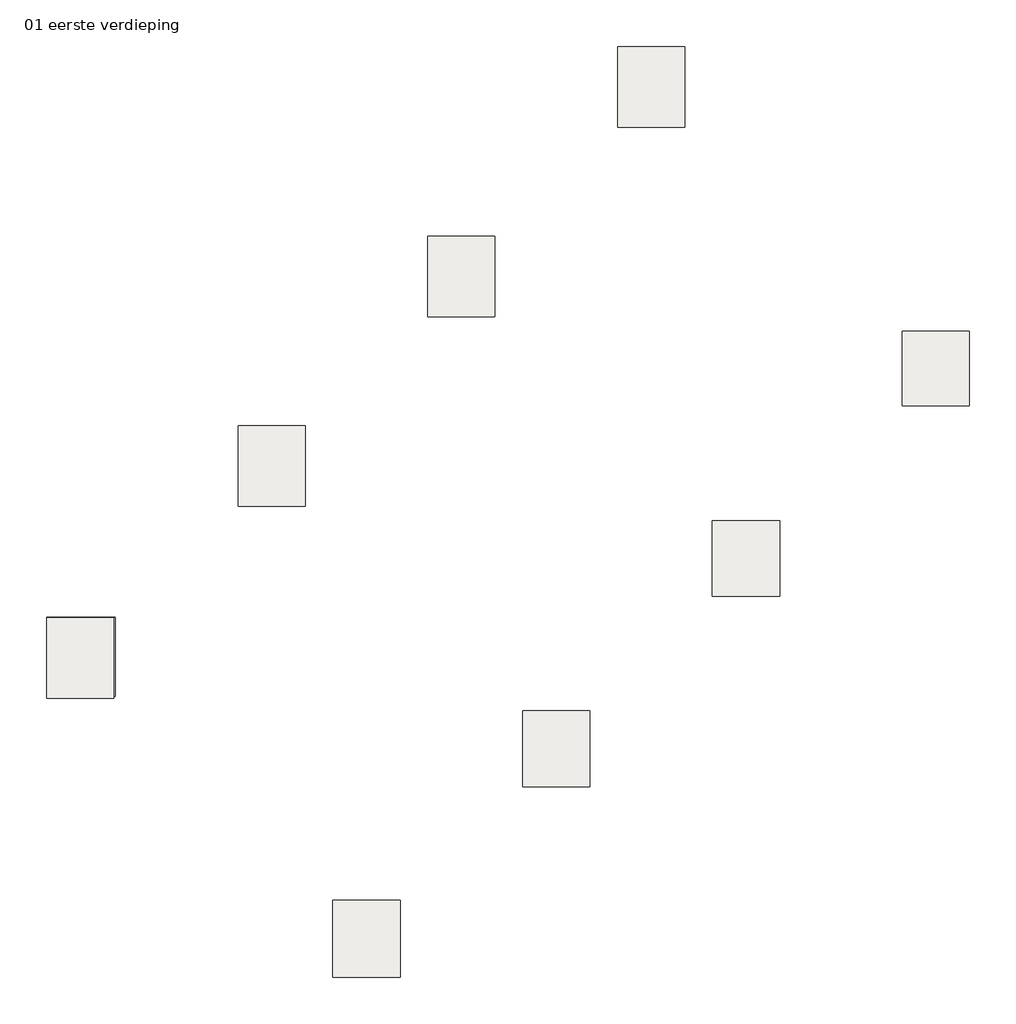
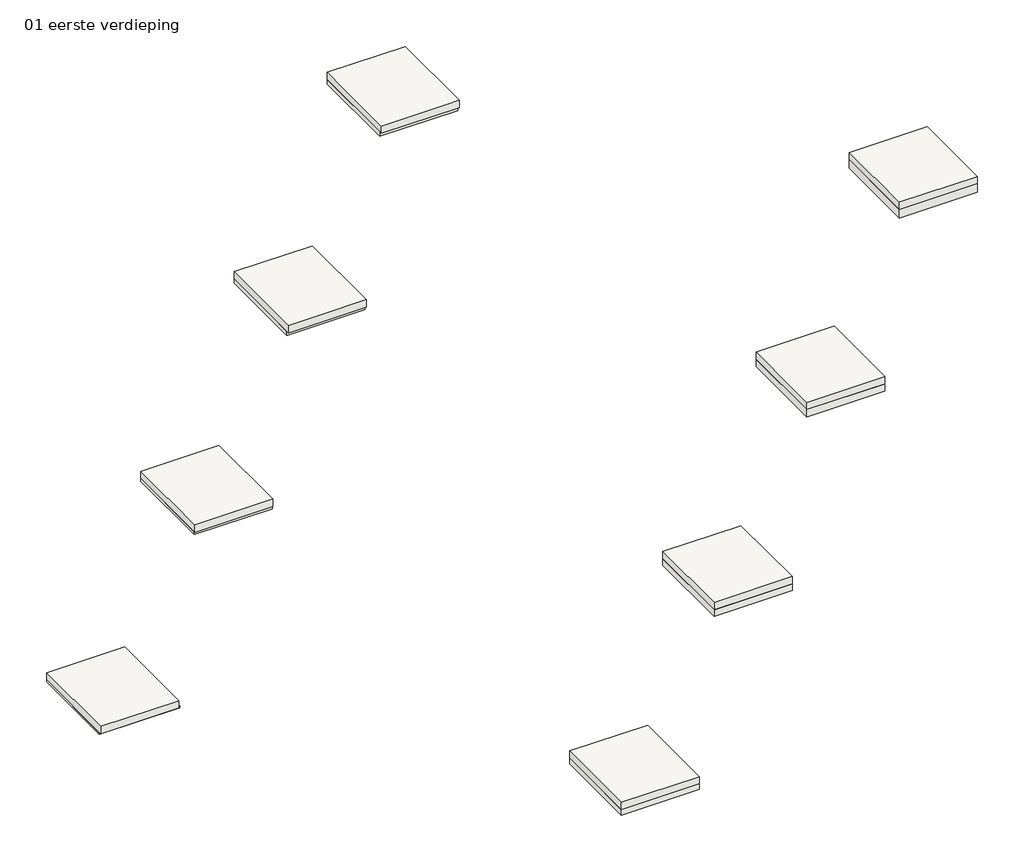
# One storey: 8 coverings, 8 slabs.
"""IFC4 building model written with IfcOpenShell, lengths in millimetres."""

from ifc_helpers import new_model, si_unit, frame, origin, place, context, project, spatial, polyline, outline, extrude, element, save

model = new_model("IFC4")

# Units and contexts
model_context = context("Model", 3, world=origin())
ifc_project = project(units=[si_unit("LENGTHUNIT", "METRE", prefix="MILLI")], contexts=[model_context])

# Site, building, storey
site = spatial("IfcSite", under=ifc_project)
building = spatial("IfcBuilding", under=site)
storey = spatial("IfcBuildingStorey", under=building, Name="01 eerste verdieping", Elevation=1000.0)

# Coverings
placement = place(None, origin())
element("IfcCovering", 1, ObjectType="NLRS_45_CEI_Heraklith Tektalan A2 SmartTec 50x1000x600mm", at=placement, inside=storey, context=model_context, shape_type="SweptSolid", body=[
    extrude(outline(polyline([(2000.0, 5300.0), (2000.0, 2950.0), (-55.0, 2950.0), (-55.0, 5300.0), (2000.0, 5300.0)])), frame((0.0, 0.0, 950.0), z_axis=(0.0, 0.0, 1.0), x_axis=(1.0, 0.0, 0.0)), (0.0, 0.0, 1.0), 50.0),
])
element("IfcCovering", 2, ObjectType="NLRS_45_CEI_Heraklith Tektalan A2 SmartTec 75x1000x600mm", at=placement, inside=storey, context=model_context, shape_type="SweptSolid", body=[
    extrude(outline(polyline([(7656.8542495, 11006.8542495), (7656.8542495, 8631.8542495), (5656.8542495, 8631.8542495), (5656.8542495, 11006.8542495), (7656.8542495, 11006.8542495)])), frame((0.0, 0.0, 925.0), z_axis=(0.0, 0.0, 1.0), x_axis=(1.0, 0.0, 0.0)), (0.0, 0.0, 1.0), 75.0),
])
element("IfcCovering", 3, ObjectType="NLRS_45_CEI_Heraklith Tektalan A2 SmartTec 100x1000x600mm", at=placement, inside=storey, context=model_context, shape_type="SweptSolid", body=[
    extrude(outline(polyline([(13313.708499, 16663.708499), (13313.708499, 14313.708499), (11313.708499, 14313.708499), (11313.708499, 16663.708499), (13313.708499, 16663.708499)])), frame((0.0, 0.0, 900.0), z_axis=(0.0, 0.0, 1.0), x_axis=(1.0, 0.0, 0.0)), (0.0, 0.0, 1.0), 100.0),
])
element("IfcCovering", 4, ObjectType="NLRS_45_CEI_Heraklith Tektalan A2 SmartTec 125x1000x600mm", at=placement, inside=storey, context=model_context, shape_type="SweptSolid", body=[
    extrude(outline(polyline([(18970.5627485, 22320.5627485), (18970.5627485, 19995.5627485), (16970.5627485, 19995.5627485), (16970.5627485, 22320.5627485), (18970.5627485, 22320.5627485)])), frame((0.0, 0.0, 875.0), z_axis=(0.0, 0.0, 1.0), x_axis=(1.0, 0.0, 0.0)), (0.0, 0.0, 1.0), 125.0),
])
element("IfcCovering", 5, ObjectType="NLRS_45_CEI_Heraklith Tektalan A2 SmartTec 150x1000x600mm", at=placement, inside=storey, context=model_context, shape_type="SweptSolid", body=[
    extrude(outline(polyline([(10485.2813742, -3135.2813742), (10485.2813742, -5435.2813742), (8485.2813742, -5435.2813742), (8485.2813742, -3135.2813742), (10485.2813742, -3135.2813742)])), frame((0.0, 0.0, 850.0), z_axis=(0.0, 0.0, 1.0), x_axis=(1.0, 0.0, 0.0)), (0.0, 0.0, 1.0), 150.0),
])
element("IfcCovering", 6, ObjectType="NLRS_45_CEI_Heraklith Tektalan A2 SmartTec 175x1000x600mm", at=placement, inside=storey, context=model_context, shape_type="SweptSolid", body=[
    extrude(outline(polyline([(16142.1356237, 2521.5728753), (16142.1356237, 246.5728753), (14142.1356237, 246.5728753), (14142.1356237, 2521.5728753), (16142.1356237, 2521.5728753)])), frame((0.0, 0.0, 825.0), z_axis=(0.0, 0.0, 1.0), x_axis=(1.0, 0.0, 0.0)), (0.0, 0.0, 1.0), 175.0),
])
element("IfcCovering", 7, ObjectType="NLRS_45_CEI_Heraklith Tektalan A2 SmartTec 200x1000x600mm", at=placement, inside=storey, context=model_context, shape_type="SweptSolid", body=[
    extrude(outline(polyline([(21798.9898732, 8178.4271247), (21798.9898732, 5928.4271247), (19798.9898732, 5928.4271247), (19798.9898732, 8178.4271247), (21798.9898732, 8178.4271247)])), frame((0.0, 0.0, 800.0), z_axis=(0.0, 0.0, 1.0), x_axis=(1.0, 0.0, 0.0)), (0.0, 0.0, 1.0), 200.0),
])
element("IfcCovering", 8, ObjectType="NLRS_45_CEI_Heraklith Tektalan A2 SmartTec 225x1000x600mm", at=placement, inside=storey, context=model_context, shape_type="SweptSolid", body=[
    extrude(outline(polyline([(27455.8441227, 13835.2813742), (27455.8441227, 11610.2813742), (25455.8441227, 11610.2813742), (25455.8441227, 13835.2813742), (27455.8441227, 13835.2813742)])), frame((0.0, 0.0, 775.0), z_axis=(0.0, 0.0, 1.0), x_axis=(1.0, 0.0, 0.0)), (0.0, 0.0, 1.0), 225.0),
])

# Slabs
element("IfcSlab", 9, ObjectType="Generic 200mm", at=placement, inside=storey, context=model_context, shape_type="SweptSolid", body=[
    extrude(outline(polyline([(1945.0, 5295.0), (1945.0, 2895.0), (-55.0, 2895.0), (-55.0, 5295.0), (1945.0, 5295.0)])), frame((0.0, 0.0, 1000.0), z_axis=(0.0, 0.0, 1.0), x_axis=(1.0, 0.0, 0.0)), (0.0, 0.0, 1.0), 200.0),
])
element("IfcSlab", 10, ObjectType="Generic 200mm", at=placement, inside=storey, context=model_context, shape_type="SweptSolid", body=[
    extrude(outline(polyline([(7656.8542495, 11006.8542495), (7656.8542495, 8606.8542495), (5656.8542495, 8606.8542495), (5656.8542495, 11006.8542495), (7656.8542495, 11006.8542495)])), frame((0.0, 0.0, 1000.0), z_axis=(0.0, 0.0, 1.0), x_axis=(1.0, 0.0, 0.0)), (0.0, 0.0, 1.0), 200.0),
])
element("IfcSlab", 11, ObjectType="Generic 200mm", at=placement, inside=storey, context=model_context, shape_type="SweptSolid", body=[
    extrude(outline(polyline([(13313.708499, 16663.708499), (13313.708499, 14263.708499), (11313.708499, 14263.708499), (11313.708499, 16663.708499), (13313.708499, 16663.708499)])), frame((0.0, 0.0, 1000.0), z_axis=(0.0, 0.0, 1.0), x_axis=(1.0, 0.0, 0.0)), (0.0, 0.0, 1.0), 200.0),
])
element("IfcSlab", 12, ObjectType="Generic 200mm", at=placement, inside=storey, context=model_context, shape_type="SweptSolid", body=[
    extrude(outline(polyline([(18970.5627485, 22320.5627485), (18970.5627485, 19920.5627485), (16970.5627485, 19920.5627485), (16970.5627485, 22320.5627485), (18970.5627485, 22320.5627485)])), frame((0.0, 0.0, 1000.0), z_axis=(0.0, 0.0, 1.0), x_axis=(1.0, 0.0, 0.0)), (0.0, 0.0, 1.0), 200.0),
])
element("IfcSlab", 13, ObjectType="Generic 200mm", at=placement, inside=storey, context=model_context, shape_type="SweptSolid", body=[
    extrude(outline(polyline([(27455.8441227, 13835.2813742), (27455.8441227, 11610.2813742), (25455.8441227, 11610.2813742), (25455.8441227, 13835.2813742), (27455.8441227, 13835.2813742)])), frame((0.0, 0.0, 1000.0), z_axis=(0.0, 0.0, 1.0), x_axis=(1.0, 0.0, 0.0)), (0.0, 0.0, 1.0), 200.0),
])
element("IfcSlab", 14, ObjectType="Generic 200mm", at=placement, inside=storey, context=model_context, shape_type="SweptSolid", body=[
    extrude(outline(polyline([(21798.9898732, 8178.4271247), (21798.9898732, 5928.4271247), (19798.9898732, 5928.4271247), (19798.9898732, 8178.4271247), (21798.9898732, 8178.4271247)])), frame((0.0, 0.0, 1000.0), z_axis=(0.0, 0.0, 1.0), x_axis=(1.0, 0.0, 0.0)), (0.0, 0.0, 1.0), 200.0),
])
element("IfcSlab", 15, ObjectType="Generic 200mm", at=placement, inside=storey, context=model_context, shape_type="SweptSolid", body=[
    extrude(outline(polyline([(16142.1356237, 2521.5728753), (16142.1356237, 246.5728753), (14142.1356237, 246.5728753), (14142.1356237, 2521.5728753), (16142.1356237, 2521.5728753)])), frame((0.0, 0.0, 1000.0), z_axis=(0.0, 0.0, 1.0), x_axis=(1.0, 0.0, 0.0)), (0.0, 0.0, 1.0), 200.0),
])
element("IfcSlab", 16, ObjectType="Generic 200mm", at=placement, inside=storey, context=model_context, shape_type="SweptSolid", body=[
    extrude(outline(polyline([(10485.2813742, -3135.2813742), (10485.2813742, -5435.2813742), (8485.2813742, -5435.2813742), (8485.2813742, -3135.2813742), (10485.2813742, -3135.2813742)])), frame((0.0, 0.0, 1000.0), z_axis=(0.0, 0.0, 1.0), x_axis=(1.0, 0.0, 0.0)), (0.0, 0.0, 1.0), 200.0),
])

save(model, "model.ifc")
